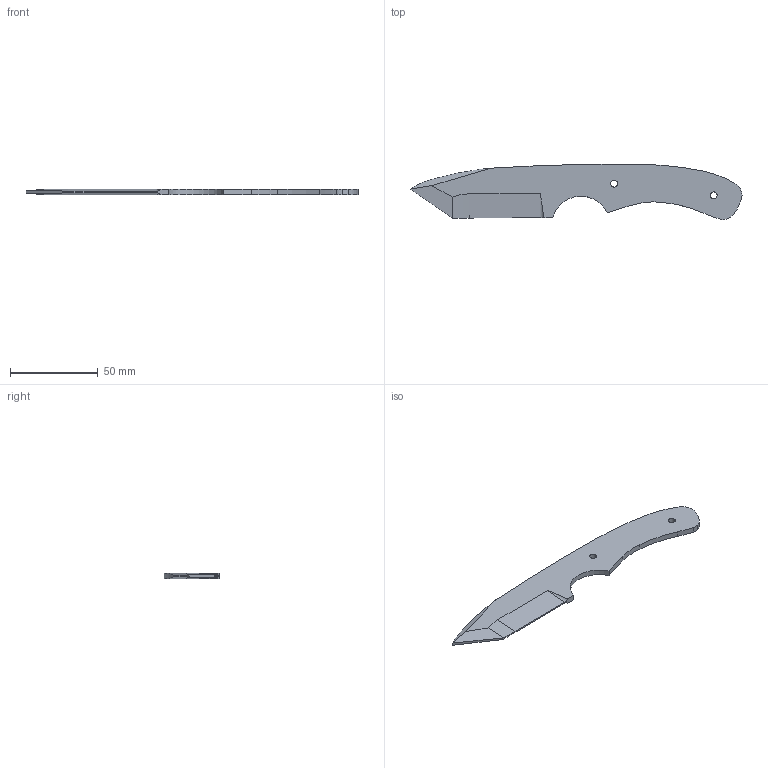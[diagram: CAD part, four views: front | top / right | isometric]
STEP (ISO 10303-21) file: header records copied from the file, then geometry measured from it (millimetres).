
FILE_DESCRIPTION (( 'STEP AP203' ), '1' );
FILE_NAME ('KNIFE - NO SHARPE.STEP', '2018-02-08T20:54:50', ( '' ), ( '' ), 'SwSTEP 2.0', 'SolidWorks 2015', '' );
FILE_SCHEMA (( 'CONFIG_CONTROL_DESIGN' ));
Length unit declared in the file: inch
Products named in the file (1): KNIFE - NO SHARPE
Bounding box: 189.41 x 31.65 x 3.17 mm (x, y, z)
Volume: 12450 mm3; surface area: 9729.9 mm2
Topology: 1 solids, 1 shells, 34 faces, 94 edges, 62 vertices
Faces by surface type: cylinder 20, plane 8, cone 6
Entity records: 1251 total; most frequent: CARTESIAN_POINT 295, ORIENTED_EDGE 188, DIRECTION 186, EDGE_CURVE 94, AXIS2_PLACEMENT_3D 75, VERTEX_POINT 62, CIRCLE 40, EDGE_LOOP 38
